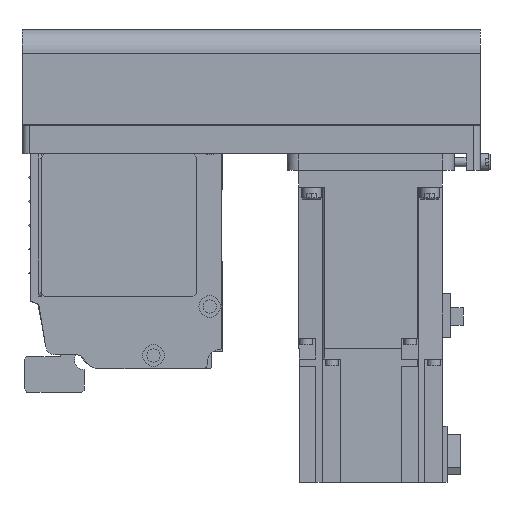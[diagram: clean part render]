
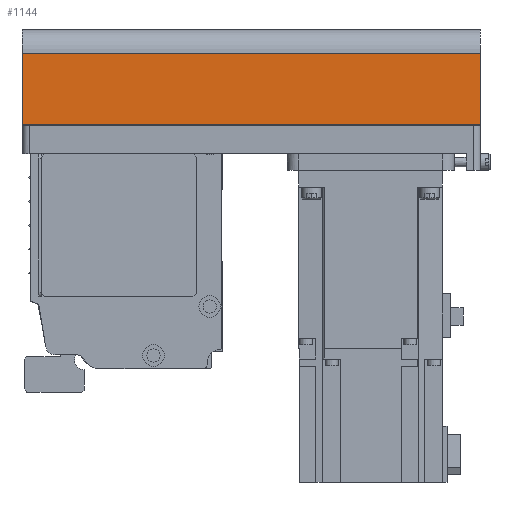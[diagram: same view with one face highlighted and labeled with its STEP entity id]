
A CAD part, left-side view. The second image highlights one B-rep face of the part: STEP entity #1144.
In plain terms, the highlighted planar face has unit normal (-1, 0, 0) as drawn and (0, -1, 0) by its records, which use the part's own axes.
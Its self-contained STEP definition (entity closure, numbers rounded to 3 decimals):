
#1144 = ADVANCED_FACE( '', ( #2834 ), #2835, .T. );
#2834 = FACE_OUTER_BOUND( '', #5274, .T. );
#2835 = PLANE( '', #5275 );
#5274 = EDGE_LOOP( '', ( #8364, #8365, #8366, #8367 ) );
#5275 = AXIS2_PLACEMENT_3D( '', #8368, #8369, #8370 );
#8364 = ORIENTED_EDGE( '', *, *, #14416, .F. );
#8365 = ORIENTED_EDGE( '', *, *, #14417, .F. );
#8366 = ORIENTED_EDGE( '', *, *, #14418, .T. );
#8367 = ORIENTED_EDGE( '', *, *, #14419, .T. );
#8368 = CARTESIAN_POINT( '', ( -192., -40., -12.1 ) );
#8369 = DIRECTION( '', ( 0., -1., 0. ) );
#8370 = DIRECTION( '', ( 0., 0., -1. ) );
#14416 = EDGE_CURVE( '', #17400, #17401, #17402, .T. );
#14417 = EDGE_CURVE( '', #17403, #17400, #17404, .T. );
#14418 = EDGE_CURVE( '', #17403, #17405, #17406, .T. );
#14419 = EDGE_CURVE( '', #17405, #17401, #17407, .T. );
#17400 = VERTEX_POINT( '', #21461 );
#17401 = VERTEX_POINT( '', #21462 );
#17402 = LINE( '', #21463, #21464 );
#17403 = VERTEX_POINT( '', #21465 );
#17404 = LINE( '', #21466, #21467 );
#17405 = VERTEX_POINT( '', #21468 );
#17406 = LINE( '', #21469, #21470 );
#17407 = LINE( '', #21471, #21472 );
#21461 = CARTESIAN_POINT( '', ( 0., -40., -12.1 ) );
#21462 = CARTESIAN_POINT( '', ( 0., -40., -42. ) );
#21463 = CARTESIAN_POINT( '', ( 0., -40., -12.1 ) );
#21464 = VECTOR( '', #25758, 1000. );
#21465 = CARTESIAN_POINT( '', ( -192., -40., -12.1 ) );
#21466 = CARTESIAN_POINT( '', ( -192., -40., -12.1 ) );
#21467 = VECTOR( '', #25759, 1000. );
#21468 = CARTESIAN_POINT( '', ( -192., -40., -42. ) );
#21469 = CARTESIAN_POINT( '', ( -192., -40., -12.1 ) );
#21470 = VECTOR( '', #25760, 1000. );
#21471 = CARTESIAN_POINT( '', ( -192., -40., -42. ) );
#21472 = VECTOR( '', #25761, 1000. );
#25758 = DIRECTION( '', ( 0., 0., -1. ) );
#25759 = DIRECTION( '', ( 1., 0., 0. ) );
#25760 = DIRECTION( '', ( 0., 0., -1. ) );
#25761 = DIRECTION( '', ( 1., 0., 0. ) );
